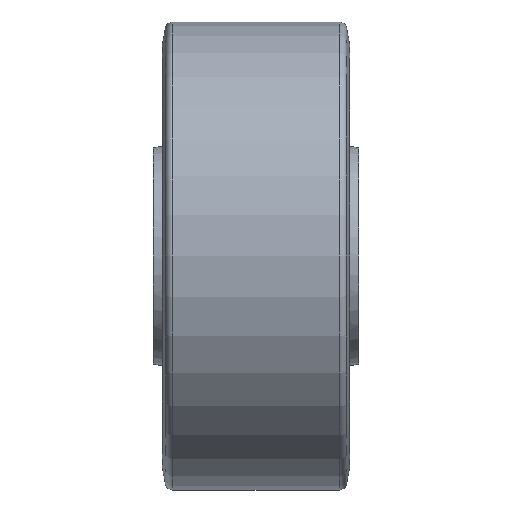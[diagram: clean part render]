
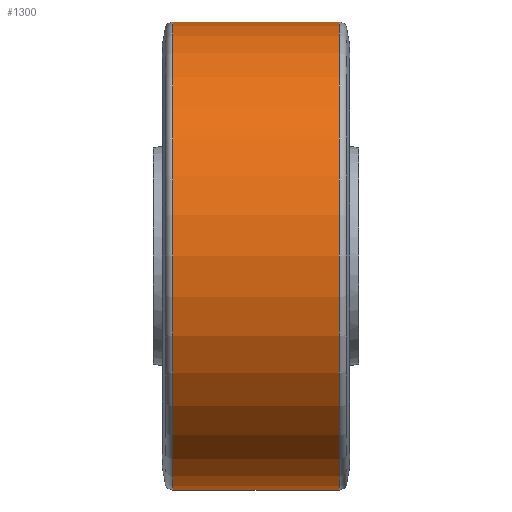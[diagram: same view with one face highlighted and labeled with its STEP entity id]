
A CAD part, front view. The second image highlights one B-rep face of the part: STEP entity #1300.
In plain terms, the highlighted cylindrical face has radius 62.5 mm (diameter 125 mm), a partial arc.
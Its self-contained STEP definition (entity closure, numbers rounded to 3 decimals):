
#55 = FACE_OUTER_BOUND ( 'NONE', #371, .T. ) ;
#82 = DIRECTION ( 'NONE',  ( -1., 0., 0. ) ) ;
#83 = AXIS2_PLACEMENT_3D ( 'NONE', #708, #1530, #98 ) ;
#98 = DIRECTION ( 'NONE',  ( 0., 0., 1. ) ) ;
#163 = LINE ( 'NONE', #1590, #663 ) ;
#165 = DIRECTION ( 'NONE',  ( 0., 0., 1. ) ) ;
#183 = VERTEX_POINT ( 'NONE', #277 ) ;
#254 = CARTESIAN_POINT ( 'NONE',  ( -22.264, 0., 62.5 ) ) ;
#270 = EDGE_CURVE ( 'NONE', #183, #850, #1890, .T. ) ;
#277 = CARTESIAN_POINT ( 'NONE',  ( 22.264, 0., -62.5 ) ) ;
#306 = ORIENTED_EDGE ( 'NONE', *, *, #1808, .T. ) ;
#371 = EDGE_LOOP ( 'NONE', ( #1945, #755, #306, #1790 ) ) ;
#482 = AXIS2_PLACEMENT_3D ( 'NONE', #521, #82, #1174 ) ;
#520 = CARTESIAN_POINT ( 'NONE',  ( -22.264, 0., -62.5 ) ) ;
#521 = CARTESIAN_POINT ( 'NONE',  ( 22.264, 0., 0. ) ) ;
#663 = VECTOR ( 'NONE', #1780, 1000. ) ;
#689 = CYLINDRICAL_SURFACE ( 'NONE', #83, 62.5 ) ;
#708 = CARTESIAN_POINT ( 'NONE',  ( 0., 0., 0. ) ) ;
#755 = ORIENTED_EDGE ( 'NONE', *, *, #270, .T. ) ;
#777 = CARTESIAN_POINT ( 'NONE',  ( 0., 0., 62.5 ) ) ;
#850 = VERTEX_POINT ( 'NONE', #1457 ) ;
#969 = VERTEX_POINT ( 'NONE', #254 ) ;
#1076 = LINE ( 'NONE', #777, #1269 ) ;
#1117 = DIRECTION ( 'NONE',  ( -1., 0., 0. ) ) ;
#1132 = AXIS2_PLACEMENT_3D ( 'NONE', #1909, #1117, #165 ) ;
#1174 = DIRECTION ( 'NONE',  ( 0., 0., 1. ) ) ;
#1178 = VERTEX_POINT ( 'NONE', #520 ) ;
#1269 = VECTOR ( 'NONE', #1406, 1000. ) ;
#1300 = ADVANCED_FACE ( 'NONE', ( #55 ), #689, .T. ) ;
#1406 = DIRECTION ( 'NONE',  ( -1., 0., 0. ) ) ;
#1457 = CARTESIAN_POINT ( 'NONE',  ( 22.264, 0., 62.5 ) ) ;
#1501 = EDGE_CURVE ( 'NONE', #1178, #969, #2038, .T. ) ;
#1530 = DIRECTION ( 'NONE',  ( -1., 0., 0. ) ) ;
#1590 = CARTESIAN_POINT ( 'NONE',  ( 0., 0., -62.5 ) ) ;
#1780 = DIRECTION ( 'NONE',  ( -1., 0., 0. ) ) ;
#1790 = ORIENTED_EDGE ( 'NONE', *, *, #1501, .F. ) ;
#1808 = EDGE_CURVE ( 'NONE', #850, #969, #1076, .T. ) ;
#1872 = EDGE_CURVE ( 'NONE', #183, #1178, #163, .T. ) ;
#1890 = CIRCLE ( 'NONE', #482, 62.5 ) ;
#1909 = CARTESIAN_POINT ( 'NONE',  ( -22.264, 0., 0. ) ) ;
#1945 = ORIENTED_EDGE ( 'NONE', *, *, #1872, .F. ) ;
#2038 = CIRCLE ( 'NONE', #1132, 62.5 ) ;
